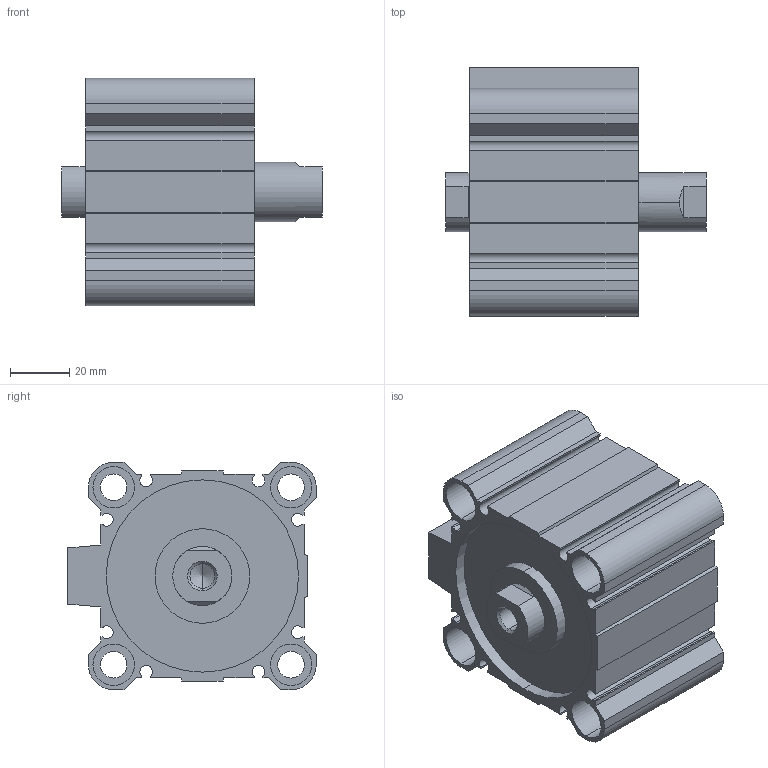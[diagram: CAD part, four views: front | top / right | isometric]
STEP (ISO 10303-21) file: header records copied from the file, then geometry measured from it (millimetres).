
FILE_DESCRIPTION (( 'STEP AP203' ), '1' );
FILE_NAME ('CCMB63-15F-P.STEP', '2020-08-05T11:46:08', ( '' ), ( '' ), 'SwSTEP 2.0', 'SolidWorks 2019', '' );
FILE_SCHEMA (( 'CONFIG_CONTROL_DESIGN' ));
Length unit declared in the file: millimetre
Products named in the file (1): CCMB63-15F-P
Bounding box: 88 x 84 x 77 mm (x, y, z)
Volume: 218703.8 mm3; surface area: 72525.2 mm2
Topology: 2 solids, 2 shells, 176 faces, 450 edges, 294 vertices
Faces by surface type: plane 90, cylinder 74, cone 12
Entity records: 5421 total; most frequent: DIRECTION 948, CARTESIAN_POINT 941, ORIENTED_EDGE 892, EDGE_CURVE 446, AXIS2_PLACEMENT_3D 333, VERTEX_POINT 294, LINE 282, VECTOR 282
